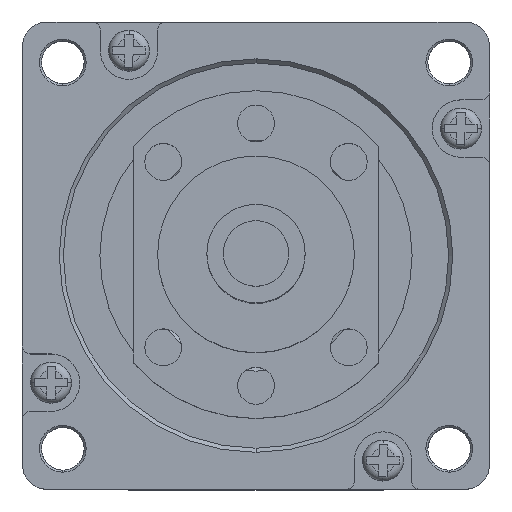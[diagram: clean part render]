
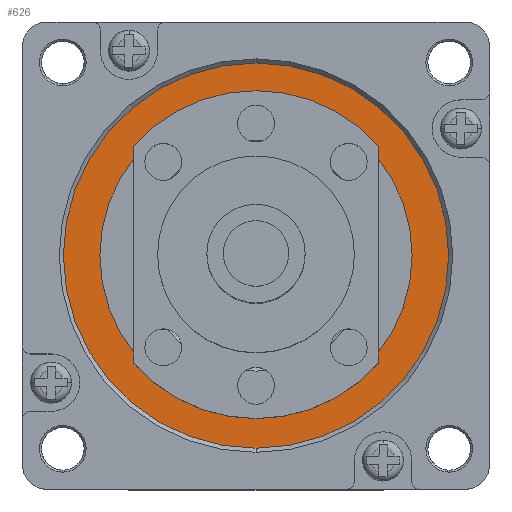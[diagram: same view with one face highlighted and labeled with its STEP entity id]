
A CAD part, top view. The second image highlights one B-rep face of the part: STEP entity #626.
In plain terms, the highlighted planar face has unit normal (0, 0, 1).
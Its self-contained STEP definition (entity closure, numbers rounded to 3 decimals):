
#361 = FACE_BOUND ( 'NONE', #673, .T. ) ;
#373 = CARTESIAN_POINT ( 'NONE',  ( 0., 0., -2.1 ) ) ;
#552 = EDGE_LOOP ( 'NONE', ( #9439, #8623 ) ) ;
#626 = ADVANCED_FACE ( 'NONE', ( #8488, #361 ), #7900, .T. ) ;
#665 = CARTESIAN_POINT ( 'NONE',  ( 0., 0., -2.1 ) ) ;
#673 = EDGE_LOOP ( 'NONE', ( #3057, #1938 ) ) ;
#786 = CIRCLE ( 'NONE', #5085, 23.5 ) ;
#822 = DIRECTION ( 'NONE',  ( 0., 0., 1. ) ) ;
#1439 = DIRECTION ( 'NONE',  ( 0., -1., 0. ) ) ;
#1599 = AXIS2_PLACEMENT_3D ( 'NONE', #6613, #2065, #7397 ) ;
#1938 = ORIENTED_EDGE ( 'NONE', *, *, #4827, .T. ) ;
#1955 = CARTESIAN_POINT ( 'NONE',  ( 0., 23.5, -2.1 ) ) ;
#2065 = DIRECTION ( 'NONE',  ( 0., 0., -1. ) ) ;
#2083 = CARTESIAN_POINT ( 'NONE',  ( 0., 0., -2.1 ) ) ;
#2194 = AXIS2_PLACEMENT_3D ( 'NONE', #5408, #822, #6181 ) ;
#2594 = EDGE_CURVE ( 'NONE', #3128, #3117, #8519, .T. ) ;
#3006 = CARTESIAN_POINT ( 'NONE',  ( 0., -19.05, -2.1 ) ) ;
#3057 = ORIENTED_EDGE ( 'NONE', *, *, #5147, .T. ) ;
#3098 = EDGE_CURVE ( 'NONE', #3117, #3128, #786, .T. ) ;
#3117 = VERTEX_POINT ( 'NONE', #8789 ) ;
#3128 = VERTEX_POINT ( 'NONE', #1955 ) ;
#3435 = DIRECTION ( 'NONE',  ( 0., -1., 0. ) ) ;
#3840 = CARTESIAN_POINT ( 'NONE',  ( 0., 19.05, -2.1 ) ) ;
#4769 = CIRCLE ( 'NONE', #8775, 19.05 ) ;
#4827 = EDGE_CURVE ( 'NONE', #6488, #7729, #8694, .T. ) ;
#5085 = AXIS2_PLACEMENT_3D ( 'NONE', #2083, #7983, #3435 ) ;
#5147 = EDGE_CURVE ( 'NONE', #7729, #6488, #4769, .T. ) ;
#5408 = CARTESIAN_POINT ( 'NONE',  ( 0., 0., -2.1 ) ) ;
#6010 = DIRECTION ( 'NONE',  ( 0., 0., -1. ) ) ;
#6181 = DIRECTION ( 'NONE',  ( 0., -1., 0. ) ) ;
#6488 = VERTEX_POINT ( 'NONE', #3840 ) ;
#6613 = CARTESIAN_POINT ( 'NONE',  ( 0., 0., -2.1 ) ) ;
#7100 = DIRECTION ( 'NONE',  ( 1., 0., 0. ) ) ;
#7274 = DIRECTION ( 'NONE',  ( 0., 0., 1. ) ) ;
#7397 = DIRECTION ( 'NONE',  ( 0., -1., 0. ) ) ;
#7729 = VERTEX_POINT ( 'NONE', #3006 ) ;
#7900 = PLANE ( 'NONE',  #8765 ) ;
#7983 = DIRECTION ( 'NONE',  ( 0., 0., 1. ) ) ;
#8488 = FACE_OUTER_BOUND ( 'NONE', #552, .T. ) ;
#8519 = CIRCLE ( 'NONE', #2194, 23.5 ) ;
#8623 = ORIENTED_EDGE ( 'NONE', *, *, #2594, .T. ) ;
#8694 = CIRCLE ( 'NONE', #1599, 19.05 ) ;
#8765 = AXIS2_PLACEMENT_3D ( 'NONE', #373, #7274, #7100 ) ;
#8775 = AXIS2_PLACEMENT_3D ( 'NONE', #665, #6010, #1439 ) ;
#8789 = CARTESIAN_POINT ( 'NONE',  ( 0., -23.5, -2.1 ) ) ;
#9439 = ORIENTED_EDGE ( 'NONE', *, *, #3098, .T. ) ;
